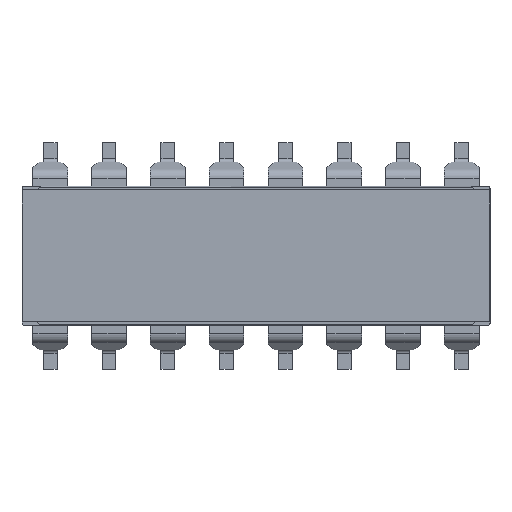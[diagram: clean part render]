
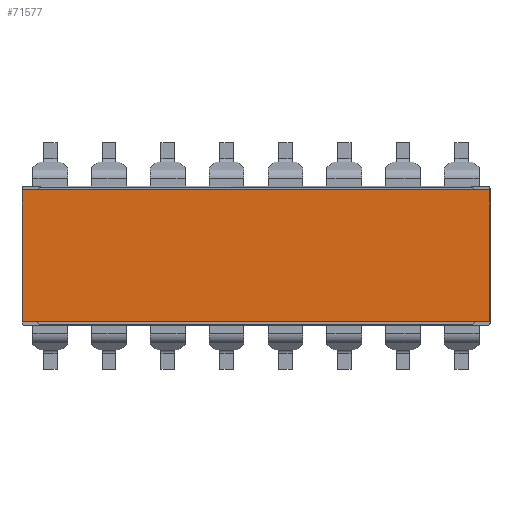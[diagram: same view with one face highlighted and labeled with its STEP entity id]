
A CAD part, top view. The second image highlights one B-rep face of the part: STEP entity #71577.
In plain terms, the highlighted planar face has unit normal (0, 0, 1).
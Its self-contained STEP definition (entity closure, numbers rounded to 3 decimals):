
#13094 = CARTESIAN_POINT ( 'NONE',  ( 10.11, -2.85, 2.2 ) ) ;
#13095 = DIRECTION ( 'NONE',  ( 0., 1., 0. ) ) ;
#13096 = VECTOR ( 'NONE', #13095, 1000. ) ;
#13097 = CARTESIAN_POINT ( 'NONE',  ( 10.11, -2.85, 2.2 ) ) ;
#13098 = LINE ( 'NONE', #13097, #13096 ) ;
#13099 = CARTESIAN_POINT ( 'NONE',  ( 10.11, 2.85, 2.2 ) ) ;
#13141 = DIRECTION ( 'NONE',  ( 0., 1., 0. ) ) ;
#13142 = VECTOR ( 'NONE', #13141, 1000. ) ;
#13143 = CARTESIAN_POINT ( 'NONE',  ( -10.11, -2.85, 2.2 ) ) ;
#13144 = LINE ( 'NONE', #13143, #13142 ) ;
#13145 = CARTESIAN_POINT ( 'NONE',  ( -10.11, -2.85, 2.2 ) ) ;
#13171 = CARTESIAN_POINT ( 'NONE',  ( -10.11, 2.85, 2.2 ) ) ;
#13194 = DIRECTION ( 'NONE',  ( 1., 0., 0. ) ) ;
#13195 = VECTOR ( 'NONE', #13194, 1000. ) ;
#13196 = CARTESIAN_POINT ( 'NONE',  ( 10.11, -2.85, 2.2 ) ) ;
#13197 = LINE ( 'NONE', #13196, #13195 ) ;
#13198 = DIRECTION ( 'NONE',  ( 1., 0., 0. ) ) ;
#13199 = VECTOR ( 'NONE', #13198, 1000. ) ;
#13200 = CARTESIAN_POINT ( 'NONE',  ( 10.11, 2.85, 2.2 ) ) ;
#13201 = DIRECTION ( 'NONE',  ( 1., 0., 0. ) ) ;
#13202 = DIRECTION ( 'NONE',  ( 0., 0., 1. ) ) ;
#13203 = AXIS2_PLACEMENT_3D ( 'NONE', #13205, #13202, #13201 ) ;
#13204 = LINE ( 'NONE', #13200, #13199 ) ;
#13205 = CARTESIAN_POINT ( 'NONE',  ( 10.11, -2.85, 2.2 ) ) ;
#13206 = PLANE ( 'NONE',  #13203 ) ;
#13207 = FACE_OUTER_BOUND ( 'NONE', #71580, .T. ) ;
#71433 = VERTEX_POINT ( 'NONE', #13099 ) ;
#71437 = EDGE_CURVE ( 'NONE', #71439, #71433, #13098, .T. ) ;
#71439 = VERTEX_POINT ( 'NONE', #13094 ) ;
#71453 = VERTEX_POINT ( 'NONE', #13145 ) ;
#71460 = EDGE_CURVE ( 'NONE', #71453, #71515, #13144, .T. ) ;
#71515 = VERTEX_POINT ( 'NONE', #13171 ) ;
#71577 = ADVANCED_FACE ( 'NONE', ( #13207 ), #13206, .T. ) ;
#71580 = EDGE_LOOP ( 'NONE', ( #71585, #71589, #71592, #71596 ) ) ;
#71585 = ORIENTED_EDGE ( 'NONE', *, *, #71586, .F. ) ;
#71586 = EDGE_CURVE ( 'NONE', #71515, #71433, #13204, .T. ) ;
#71589 = ORIENTED_EDGE ( 'NONE', *, *, #71460, .F. ) ;
#71592 = ORIENTED_EDGE ( 'NONE', *, *, #71593, .T. ) ;
#71593 = EDGE_CURVE ( 'NONE', #71453, #71439, #13197, .T. ) ;
#71596 = ORIENTED_EDGE ( 'NONE', *, *, #71437, .T. ) ;
